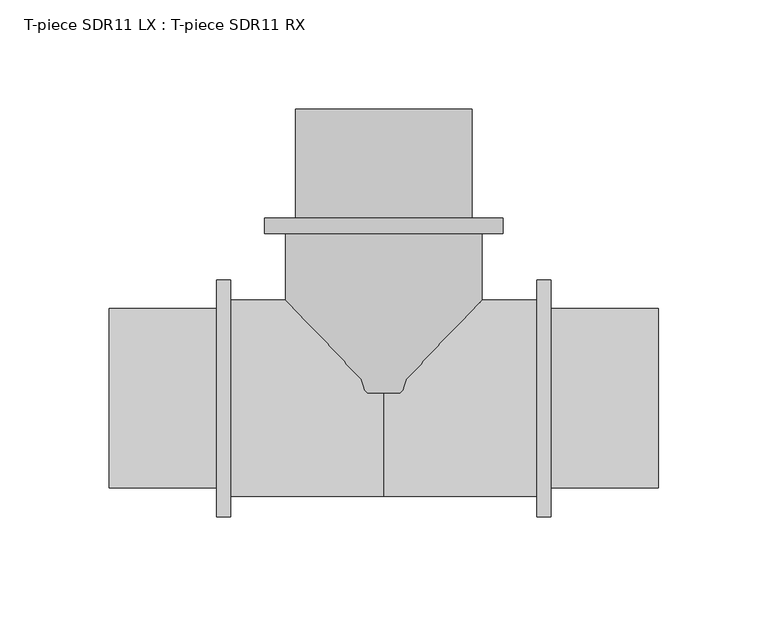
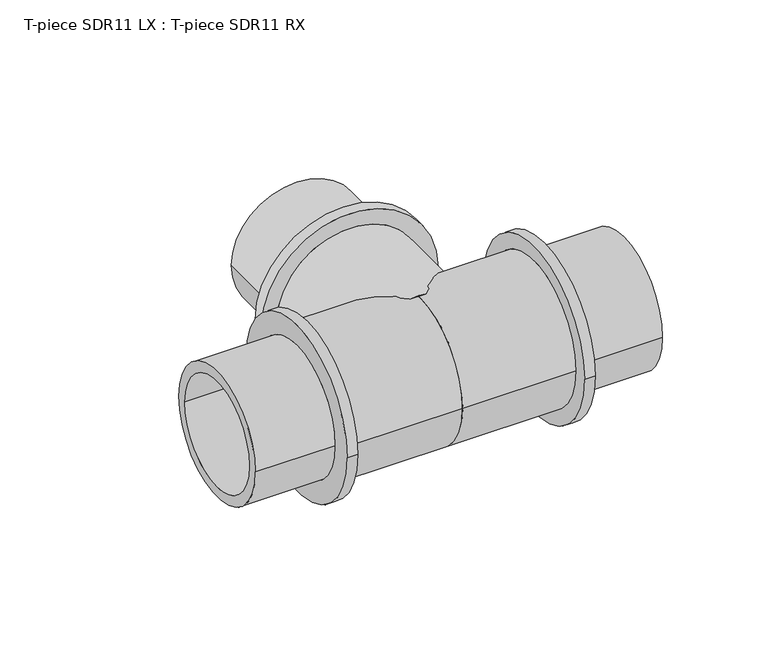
"""IFC4 building model written with IfcOpenShell, lengths in millimetres: pipe fitting geometry, T-piece SDR11 LX : T-piece SDR11 RX."""

from ifc_helpers import new_model, si_unit, point, frame, origin, place, context, project, spatial, polyline, circle_curve, ellipse_curve, trimmed, source, transform, mapped, element, save
from ifc_brep_helpers import plane_surface, cylinder_surface, revolved_surface, advanced_brep


def t_piece_sdr11_lx_t_piece_sdr11_rx_1e658908(model_context):
    return source(origin(), model_context, "Body", "AdvancedBrep", [
        advanced_brep(
        [(45.0, 2.4123602, 0.0), (-45.0, 2.4123602, 0.0), (-45.0, 75.4, 0.0), (45.0, 75.4, 0.0), (34.5, 132.5, 0.0), (-34.5, 132.5, 0.0), (-34.5, 0.0, 0.0), (34.5, 0.0, 0.0), (40.5, 82.6, 0.0), (-40.5, 82.6, 0.0), (-40.5, 132.5, 0.0), (40.5, 132.5, 0.0), (54.5, 75.4, 0.0), (-54.5, 75.4, 0.0), (-54.5, 82.6, 0.0), (54.5, 82.6, 0.0)],
        [
            (0, 1, circle_curve(frame((0.0, 2.4123602, 0.0), z_axis=(0.0, 1.0, 0.0), x_axis=(-1.0, 0.0, 0.0)), 45.0)),
            (1, 2),
            (2, 3, circle_curve(frame((0.0, 75.4, 0.0), z_axis=(0.0, -1.0, 0.0), x_axis=(-1.0, 0.0, 0.0)), 45.0)),
            (3, 0),
            (4, 5, circle_curve(frame((0.0, 132.5, 0.0), z_axis=(0.0, 1.0, 0.0), x_axis=(-1.0, 0.0, 0.0)), 34.5)),
            (5, 6),
            (6, 7, circle_curve(frame((0.0, 0.0, 0.0), z_axis=(0.0, -1.0, 0.0), x_axis=(-1.0, 0.0, 0.0)), 34.5)),
            (7, 4),
            (8, 9, circle_curve(frame((0.0, 82.6, 0.0), z_axis=(0.0, 1.0, 0.0), x_axis=(-1.0, 0.0, 0.0)), 40.5)),
            (9, 10),
            (10, 11, circle_curve(frame((0.0, 132.5, 0.0), z_axis=(0.0, -1.0, 0.0), x_axis=(-1.0, 0.0, 0.0)), 40.5)),
            (11, 8),
            (12, 13, circle_curve(frame((0.0, 75.4, 0.0), z_axis=(0.0, 1.0, 0.0), x_axis=(-1.0, 0.0, 0.0)), 54.5)),
            (13, 14),
            (14, 15, circle_curve(frame((0.0, 82.6, 0.0), z_axis=(0.0, -1.0, 0.0), x_axis=(-1.0, 0.0, 0.0)), 54.5)),
            (15, 12),
            (12, 13, circle_curve(frame((0.0, 75.4, 0.0), z_axis=(0.0, -1.0, 0.0), x_axis=(1.0, 0.0, 0.0)), 54.5)),
            (2, 3, circle_curve(frame((0.0, 75.4, 0.0), z_axis=(0.0, 1.0, 0.0), x_axis=(1.0, 0.0, 0.0)), 45.0)),
            (1, 0, circle_curve(frame((0.0, 2.4123602, 0.0), z_axis=(0.0, 1.0, 0.0), x_axis=(1.0, 0.0, 0.0)), 45.0)),
            (5, 4, circle_curve(frame((0.0, 132.5, 0.0), z_axis=(0.0, 1.0, 0.0), x_axis=(1.0, 0.0, 0.0)), 34.5)),
            (7, 6, circle_curve(frame((0.0, 0.0, 0.0), z_axis=(0.0, -1.0, 0.0), x_axis=(1.0, 0.0, 0.0)), 34.5)),
            (10, 11, circle_curve(frame((0.0, 132.5, 0.0), z_axis=(0.0, 1.0, 0.0), x_axis=(1.0, 0.0, 0.0)), 40.5)),
            (9, 8, circle_curve(frame((0.0, 82.6, 0.0), z_axis=(0.0, 1.0, 0.0), x_axis=(1.0, 0.0, 0.0)), 40.5)),
            (14, 15, circle_curve(frame((0.0, 82.6, 0.0), z_axis=(0.0, 1.0, 0.0), x_axis=(1.0, 0.0, 0.0)), 54.5)),
            (6, 1, circle_curve(frame((-29.7462802, 44.7482083, 0.0), z_axis=(0.0, 0.0, -1.0), x_axis=(0.0, -1.0, 0.0)), 45.0)),
            (0, 7, circle_curve(frame((29.7462802, 44.7482083, 0.0), z_axis=(0.0, 0.0, -1.0), x_axis=(0.0, -1.0, 0.0)), 45.0)),
        ],
        [
            cylinder_surface(frame((0.0, 0.0, 0.0), z_axis=(0.0, -1.0, 0.0), x_axis=(-1.0, 0.0, 0.0)), 45.0),
            revolved_surface(polyline([(-34.5, 0.0, 0.0), (-34.5, 132.5, 0.0)]), (0.0, 0.0, 0.0), (0.0, -1.0, 0.0)),
            cylinder_surface(frame((0.0, 0.0, 0.0), z_axis=(0.0, -1.0, 0.0), x_axis=(-1.0, 0.0, 0.0)), 40.5),
            cylinder_surface(frame((0.0, 0.0, 0.0), z_axis=(0.0, -1.0, 0.0), x_axis=(-1.0, 0.0, 0.0)), 54.5),
            plane_surface(frame((0.0, 75.4, 0.0), z_axis=(0.0, -1.0, 0.0), x_axis=(1.0, 0.0, 0.0))),
            cylinder_surface(frame((0.0, 0.0, 0.0), z_axis=(0.0, -1.0, 0.0), x_axis=(1.0, 0.0, 0.0)), 45.0),
            revolved_surface(polyline([(34.5, 0.0, 0.0), (34.5, 132.5, 0.0)]), (0.0, 0.0, 0.0), (0.0, -1.0, 0.0)),
            plane_surface(frame((0.0, 132.5, 0.0), z_axis=(0.0, 1.0, 0.0), x_axis=(1.0, 0.0, 0.0))),
            cylinder_surface(frame((0.0, 0.0, 0.0), z_axis=(0.0, -1.0, 0.0), x_axis=(1.0, 0.0, 0.0)), 40.5),
            plane_surface(frame((0.0, 82.6, 0.0), z_axis=(0.0, 1.0, 0.0), x_axis=(1.0, 0.0, 0.0))),
            cylinder_surface(frame((0.0, 0.0, 0.0), z_axis=(0.0, -1.0, 0.0), x_axis=(1.0, 0.0, 0.0)), 54.5),
            revolved_surface(trimmed(ellipse_curve(frame((-29.7462802, 44.7482083, 0.0), z_axis=(0.0, 0.0, 1.0), x_axis=(0.0, -1.0, 0.0)), 45.0, 45.0), [point((-45.0, 2.4123602, 0.0))], [point((-34.5, 0.0, 0.0))], True, "CARTESIAN"), (0.0, 0.0, 0.0), (0.0, -1.0, 0.0)),
            revolved_surface(trimmed(ellipse_curve(frame((29.7462802, 44.7482083, 0.0), z_axis=(0.0, 0.0, -1.0), x_axis=(0.0, -1.0, 0.0)), 45.0, 45.0), [point((45.0, 2.4123602, 0.0))], [point((34.5, 0.0, 0.0))], True, "CARTESIAN"), (0.0, 0.0, 0.0), (0.0, -1.0, 0.0)),
        ],
        [
            (0, [[1, 2, 3, 4]]),
            (1, [[5, 6, 7, 8]]),
            (2, [[9, 10, 11, 12]]),
            (3, [[13, 14, 15, 16]]),
            (4, [[17, -13], [18, -3]]),
            (5, [[19, -4, -18, -2]]),
            (6, [[20, -8, 21, -6]]),
            (7, [[22, -11], [-20, -5]]),
            (8, [[23, -12, -22, -10]]),
            (9, [[24, -15], [-23, -9]]),
            (10, [[-17, -16, -24, -14]]),
            (11, [[-7, 25, -1, 26]]),
            (12, [[-21, -26, -19, -25]]),
        ],
    ),
        advanced_brep(
        [(70.1, 45.0, 0.0), (70.1, -45.0, 0.0), (0.0, -45.0, 0.0), (0.0, 45.0, 0.0), (0.0, 34.5, 0.0), (0.0, -34.5, 0.0), (125.8, -34.5, 0.0), (125.8, 34.5, 0.0), (125.8, 41.05, 0.0), (125.8, -41.05, 0.0), (76.6, -41.05, 0.0), (76.6, 41.05, 0.0), (76.6, 54.3, 0.0), (76.6, -54.3, 0.0), (70.1, -54.3, 0.0), (70.1, 54.3, 0.0)],
        [
            (0, 1, circle_curve(frame((70.1, 0.0, 0.0), z_axis=(-1.0, 0.0, 0.0), x_axis=(0.0, -1.0, 0.0)), 45.0)),
            (1, 2),
            (2, 3, circle_curve(frame((0.0, 0.0, 0.0), z_axis=(1.0, 0.0, 0.0), x_axis=(0.0, -1.0, 0.0)), 45.0)),
            (3, 0),
            (4, 5, circle_curve(frame((0.0, 0.0, 0.0), z_axis=(-1.0, 0.0, 0.0), x_axis=(0.0, -1.0, 0.0)), 34.5)),
            (5, 6),
            (6, 7, circle_curve(frame((125.8, 0.0, 0.0), z_axis=(1.0, 0.0, 0.0), x_axis=(0.0, -1.0, 0.0)), 34.5)),
            (7, 4),
            (8, 9, circle_curve(frame((125.8, 0.0, 0.0), z_axis=(-1.0, 0.0, 0.0), x_axis=(0.0, -1.0, 0.0)), 41.05)),
            (9, 10),
            (10, 11, circle_curve(frame((76.6, 0.0, 0.0), z_axis=(1.0, 0.0, 0.0), x_axis=(0.0, -1.0, 0.0)), 41.05)),
            (11, 8),
            (12, 13, circle_curve(frame((76.6, 0.0, 0.0), z_axis=(-1.0, 0.0, 0.0), x_axis=(0.0, -1.0, 0.0)), 54.3)),
            (13, 14),
            (14, 15, circle_curve(frame((70.1, 0.0, 0.0), z_axis=(1.0, 0.0, 0.0), x_axis=(0.0, -1.0, 0.0)), 54.3)),
            (15, 12),
            (14, 15, circle_curve(frame((70.1, 0.0, 0.0), z_axis=(-1.0, 0.0, 0.0), x_axis=(0.0, 1.0, 0.0)), 54.3)),
            (0, 1, circle_curve(frame((70.1, 0.0, 0.0), z_axis=(1.0, 0.0, 0.0), x_axis=(0.0, 1.0, 0.0)), 45.0)),
            (3, 2, circle_curve(frame((0.0, 0.0, 0.0), z_axis=(1.0, 0.0, 0.0), x_axis=(0.0, 1.0, 0.0)), 45.0)),
            (4, 5, circle_curve(frame((0.0, 0.0, 0.0), z_axis=(1.0, 0.0, 0.0), x_axis=(0.0, 1.0, 0.0)), 34.5)),
            (7, 6, circle_curve(frame((125.8, 0.0, 0.0), z_axis=(1.0, 0.0, 0.0), x_axis=(0.0, 1.0, 0.0)), 34.5)),
            (8, 9, circle_curve(frame((125.8, 0.0, 0.0), z_axis=(1.0, 0.0, 0.0), x_axis=(0.0, 1.0, 0.0)), 41.05)),
            (11, 10, circle_curve(frame((76.6, 0.0, 0.0), z_axis=(1.0, 0.0, 0.0), x_axis=(0.0, 1.0, 0.0)), 41.05)),
            (12, 13, circle_curve(frame((76.6, 0.0, 0.0), z_axis=(1.0, 0.0, 0.0), x_axis=(0.0, 1.0, 0.0)), 54.3)),
        ],
        [
            cylinder_surface(frame((0.0, 0.0, 0.0), z_axis=(1.0, 0.0, 0.0), x_axis=(0.0, -1.0, 0.0)), 45.0),
            revolved_surface(polyline([(125.8, -34.5, 0.0), (0.0, -34.5, 0.0)]), (0.0, 0.0, 0.0), (1.0, 0.0, 0.0)),
            cylinder_surface(frame((0.0, 0.0, 0.0), z_axis=(1.0, 0.0, 0.0), x_axis=(0.0, -1.0, 0.0)), 41.05),
            cylinder_surface(frame((0.0, 0.0, 0.0), z_axis=(1.0, 0.0, 0.0), x_axis=(0.0, -1.0, 0.0)), 54.3),
            plane_surface(frame((70.1, 0.0, 0.0), z_axis=(-1.0, 0.0, 0.0), x_axis=(0.0, 1.0, 0.0))),
            cylinder_surface(frame((0.0, 0.0, 0.0), z_axis=(1.0, 0.0, 0.0), x_axis=(0.0, 1.0, 0.0)), 45.0),
            plane_surface(frame((0.0, 0.0, 0.0), z_axis=(-1.0, 0.0, 0.0), x_axis=(0.0, 1.0, 0.0))),
            revolved_surface(polyline([(125.8, 34.5, 0.0), (0.0, 34.5, 0.0)]), (0.0, 0.0, 0.0), (1.0, 0.0, 0.0)),
            plane_surface(frame((125.8, 0.0, 0.0), z_axis=(1.0, 0.0, 0.0), x_axis=(0.0, 1.0, 0.0))),
            cylinder_surface(frame((0.0, 0.0, 0.0), z_axis=(1.0, 0.0, 0.0), x_axis=(0.0, 1.0, 0.0)), 41.05),
            plane_surface(frame((76.6, 0.0, 0.0), z_axis=(1.0, 0.0, 0.0), x_axis=(0.0, 1.0, 0.0))),
            cylinder_surface(frame((0.0, 0.0, 0.0), z_axis=(1.0, 0.0, 0.0), x_axis=(0.0, 1.0, 0.0)), 54.3),
        ],
        [
            (0, [[1, 2, 3, 4]]),
            (1, [[5, 6, 7, 8]]),
            (2, [[9, 10, 11, 12]]),
            (3, [[13, 14, 15, 16]]),
            (4, [[17, -15], [18, -1]]),
            (5, [[-18, -4, 19, -2]]),
            (6, [[-19, -3], [20, -5]]),
            (7, [[-20, -8, 21, -6]]),
            (8, [[22, -9], [-21, -7]]),
            (9, [[-22, -12, 23, -10]]),
            (10, [[24, -13], [-23, -11]]),
            (11, [[-24, -16, -17, -14]]),
        ],
    ),
        advanced_brep(
        [(0.0, 45.0, 0.0), (0.0, -45.0, 0.0), (-70.1, -45.0, 0.0), (-70.1, 45.0, 0.0), (-125.8, 34.5, 0.0), (-125.8, -34.5, 0.0), (0.0, -34.5, 0.0), (0.0, 34.5, 0.0), (-76.6, 41.05, 0.0), (-76.6, -41.05, 0.0), (-125.8, -41.05, 0.0), (-125.8, 41.05, 0.0), (-70.1, 54.3, 0.0), (-70.1, -54.3, 0.0), (-76.6, -54.3, 0.0), (-76.6, 54.3, 0.0)],
        [
            (0, 1, circle_curve(frame((0.0, 0.0, 0.0), z_axis=(-1.0, 0.0, 0.0), x_axis=(0.0, -1.0, 0.0)), 45.0)),
            (1, 2),
            (2, 3, circle_curve(frame((-70.1, 0.0, 0.0), z_axis=(1.0, 0.0, 0.0), x_axis=(0.0, -1.0, 0.0)), 45.0)),
            (3, 0),
            (4, 5, circle_curve(frame((-125.8, 0.0, 0.0), z_axis=(-1.0, 0.0, 0.0), x_axis=(0.0, -1.0, 0.0)), 34.5)),
            (5, 6),
            (6, 7, circle_curve(frame((0.0, 0.0, 0.0), z_axis=(1.0, 0.0, 0.0), x_axis=(0.0, -1.0, 0.0)), 34.5)),
            (7, 4),
            (8, 9, circle_curve(frame((-76.6, 0.0, 0.0), z_axis=(-1.0, 0.0, 0.0), x_axis=(0.0, -1.0, 0.0)), 41.05)),
            (9, 10),
            (10, 11, circle_curve(frame((-125.8, 0.0, 0.0), z_axis=(1.0, 0.0, 0.0), x_axis=(0.0, -1.0, 0.0)), 41.05)),
            (11, 8),
            (12, 13, circle_curve(frame((-70.1, 0.0, 0.0), z_axis=(-1.0, 0.0, 0.0), x_axis=(0.0, -1.0, 0.0)), 54.3)),
            (13, 14),
            (14, 15, circle_curve(frame((-76.6, 0.0, 0.0), z_axis=(1.0, 0.0, 0.0), x_axis=(0.0, -1.0, 0.0)), 54.3)),
            (15, 12),
            (12, 13, circle_curve(frame((-70.1, 0.0, 0.0), z_axis=(1.0, 0.0, 0.0), x_axis=(0.0, 1.0, 0.0)), 54.3)),
            (2, 3, circle_curve(frame((-70.1, 0.0, 0.0), z_axis=(-1.0, 0.0, 0.0), x_axis=(0.0, 1.0, 0.0)), 45.0)),
            (1, 0, circle_curve(frame((0.0, 0.0, 0.0), z_axis=(-1.0, 0.0, 0.0), x_axis=(0.0, 1.0, 0.0)), 45.0)),
            (6, 7, circle_curve(frame((0.0, 0.0, 0.0), z_axis=(-1.0, 0.0, 0.0), x_axis=(0.0, 1.0, 0.0)), 34.5)),
            (5, 4, circle_curve(frame((-125.8, 0.0, 0.0), z_axis=(-1.0, 0.0, 0.0), x_axis=(0.0, 1.0, 0.0)), 34.5)),
            (10, 11, circle_curve(frame((-125.8, 0.0, 0.0), z_axis=(-1.0, 0.0, 0.0), x_axis=(0.0, 1.0, 0.0)), 41.05)),
            (9, 8, circle_curve(frame((-76.6, 0.0, 0.0), z_axis=(-1.0, 0.0, 0.0), x_axis=(0.0, 1.0, 0.0)), 41.05)),
            (14, 15, circle_curve(frame((-76.6, 0.0, 0.0), z_axis=(-1.0, 0.0, 0.0), x_axis=(0.0, 1.0, 0.0)), 54.3)),
        ],
        [
            cylinder_surface(frame((0.0, 0.0, 0.0), z_axis=(1.0, 0.0, 0.0), x_axis=(0.0, -1.0, 0.0)), 45.0),
            revolved_surface(polyline([(0.0, -34.5, 0.0), (-125.8, -34.5, 0.0)]), (0.0, 0.0, 0.0), (1.0, 0.0, 0.0)),
            cylinder_surface(frame((0.0, 0.0, 0.0), z_axis=(1.0, 0.0, 0.0), x_axis=(0.0, -1.0, 0.0)), 41.05),
            cylinder_surface(frame((0.0, 0.0, 0.0), z_axis=(1.0, 0.0, 0.0), x_axis=(0.0, -1.0, 0.0)), 54.3),
            plane_surface(frame((-70.1, 0.0, 0.0), z_axis=(1.0, 0.0, 0.0), x_axis=(0.0, 1.0, 0.0))),
            cylinder_surface(frame((0.0, 0.0, 0.0), z_axis=(1.0, 0.0, 0.0), x_axis=(0.0, 1.0, 0.0)), 45.0),
            plane_surface(frame((0.0, 0.0, 0.0), z_axis=(1.0, 0.0, 0.0), x_axis=(0.0, 1.0, 0.0))),
            revolved_surface(polyline([(0.0, 34.5, 0.0), (-125.8, 34.5, 0.0)]), (0.0, 0.0, 0.0), (1.0, 0.0, 0.0)),
            plane_surface(frame((-125.8, 0.0, 0.0), z_axis=(-1.0, 0.0, 0.0), x_axis=(0.0, 1.0, 0.0))),
            cylinder_surface(frame((0.0, 0.0, 0.0), z_axis=(1.0, 0.0, 0.0), x_axis=(0.0, 1.0, 0.0)), 41.05),
            plane_surface(frame((-76.6, 0.0, 0.0), z_axis=(-1.0, 0.0, 0.0), x_axis=(0.0, 1.0, 0.0))),
            cylinder_surface(frame((0.0, 0.0, 0.0), z_axis=(1.0, 0.0, 0.0), x_axis=(0.0, 1.0, 0.0)), 54.3),
        ],
        [
            (0, [[1, 2, 3, 4]]),
            (1, [[5, 6, 7, 8]]),
            (2, [[9, 10, 11, 12]]),
            (3, [[13, 14, 15, 16]]),
            (4, [[17, -13], [18, -3]]),
            (5, [[19, -4, -18, -2]]),
            (6, [[-19, -1], [20, -7]]),
            (7, [[21, -8, -20, -6]]),
            (8, [[22, -11], [-21, -5]]),
            (9, [[23, -12, -22, -10]]),
            (10, [[24, -15], [-23, -9]]),
            (11, [[-17, -16, -24, -14]]),
        ],
    ),
    ])


if __name__ == "__main__":
    model = new_model("IFC4")
    model_context = context("Model", 3, world=origin())
    ifc_project = project(units=[si_unit("LENGTHUNIT", "METRE", prefix="MILLI")], contexts=[model_context])
    site = spatial("IfcSite", under=ifc_project)
    building = spatial("IfcBuilding", under=site)
    placement = place(None, origin())
    t_piece_sdr11_lx_t_piece_sdr11_rx_shape = t_piece_sdr11_lx_t_piece_sdr11_rx_1e658908(model_context)
    element("IfcPipeFitting", 1, ObjectType="T-piece SDR11 LX : T-piece SDR11 RX", at=placement, inside=building, context=model_context, shape_type="MappedRepresentation", body=[
        mapped(t_piece_sdr11_lx_t_piece_sdr11_rx_shape, transform((0.0, 0.0, 0.0), x_axis=(1.0, 0.0, 0.0), y_axis=(0.0, 1.0, 0.0), z_axis=(0.0, 0.0, 1.0))),
    ])
    save(model, "model.ifc")
